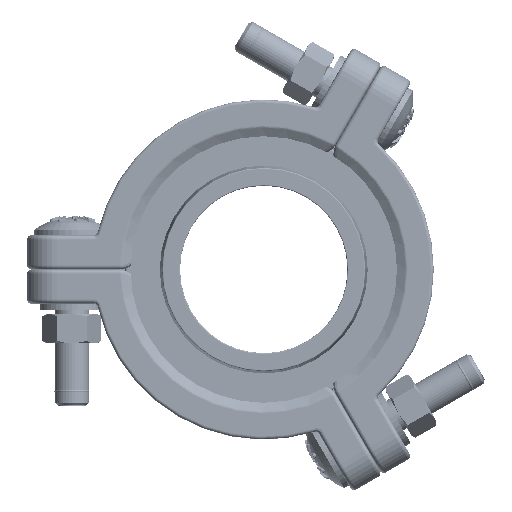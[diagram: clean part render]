
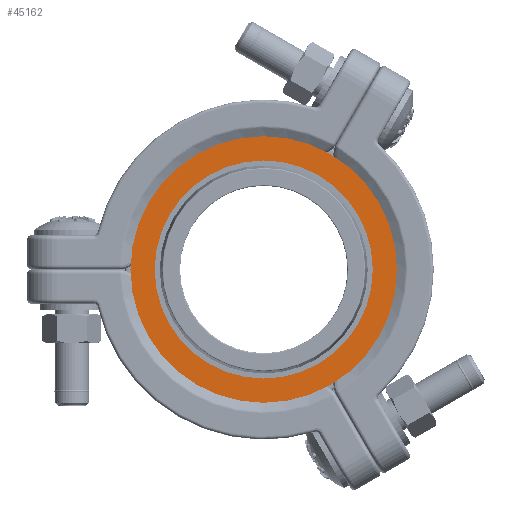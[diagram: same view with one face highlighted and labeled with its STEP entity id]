
A CAD part, left-side view. The second image highlights one B-rep face of the part: STEP entity #45162.
In plain terms, the highlighted planar face has unit normal (-1, 0, 0) as drawn and (0, 1, 0) by its records, which use the part's own axes.
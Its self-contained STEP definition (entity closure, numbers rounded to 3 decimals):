
#45057=CARTESIAN_POINT('',(0.,120.,0.));
#45058=DIRECTION('',(0.,1.,0.));
#45059=DIRECTION('',(1.,0.,0.));
#45060=AXIS2_PLACEMENT_3D('',#45057,#45058,#45059);
#45062=CARTESIAN_POINT('',(0.,120.,0.));
#45063=DIRECTION('',(0.,1.,0.));
#45064=DIRECTION('',(-1.,0.,0.));
#45065=AXIS2_PLACEMENT_3D('',#45062,#45063,#45064);
#45067=CARTESIAN_POINT('',(0.,120.,0.));
#45068=DIRECTION('',(0.,-1.,0.));
#45069=DIRECTION('',(1.,0.,0.));
#45070=AXIS2_PLACEMENT_3D('',#45067,#45068,#45069);
#45072=CARTESIAN_POINT('',(0.,120.,0.));
#45073=DIRECTION('',(0.,-1.,0.));
#45074=DIRECTION('',(-1.,0.,0.));
#45075=AXIS2_PLACEMENT_3D('',#45072,#45073,#45074);
#45093=CARTESIAN_POINT('',(62.5,120.,0.));
#45094=CARTESIAN_POINT('',(-62.5,120.,0.));
#45095=VERTEX_POINT('',#45093);
#45096=VERTEX_POINT('',#45094);
#45097=CARTESIAN_POINT('',(51.136,120.,0.));
#45098=CARTESIAN_POINT('',(-51.136,120.,0.));
#45099=VERTEX_POINT('',#45097);
#45100=VERTEX_POINT('',#45098);
#45147=CARTESIAN_POINT('',(0.,120.,0.));
#45148=DIRECTION('',(0.,1.,0.));
#45149=DIRECTION('',(1.,0.,0.));
#45150=AXIS2_PLACEMENT_3D('',#45147,#45148,#45149);
#45151=PLANE('',#45150);
#45152=ORIENTED_EDGE('',*,*,#45127,.F.);
#45153=ORIENTED_EDGE('',*,*,#45141,.F.);
#45154=EDGE_LOOP('',(#45152,#45153));
#45155=FACE_OUTER_BOUND('',#45154,.F.);
#45157=ORIENTED_EDGE('',*,*,#45156,.F.);
#45159=ORIENTED_EDGE('',*,*,#45158,.F.);
#45160=EDGE_LOOP('',(#45157,#45159));
#45161=FACE_BOUND('',#45160,.F.);
#45162=ADVANCED_FACE('',(#45155,#45161),#45151,.T.);
#45061=CIRCLE('',#45060,62.5);
#45066=CIRCLE('',#45065,62.5);
#45071=CIRCLE('',#45070,51.136);
#45076=CIRCLE('',#45075,51.136);
#45127=EDGE_CURVE('',#45095,#45096,#45061,.T.);
#45141=EDGE_CURVE('',#45096,#45095,#45066,.T.);
#45156=EDGE_CURVE('',#45099,#45100,#45071,.T.);
#45158=EDGE_CURVE('',#45100,#45099,#45076,.T.);
